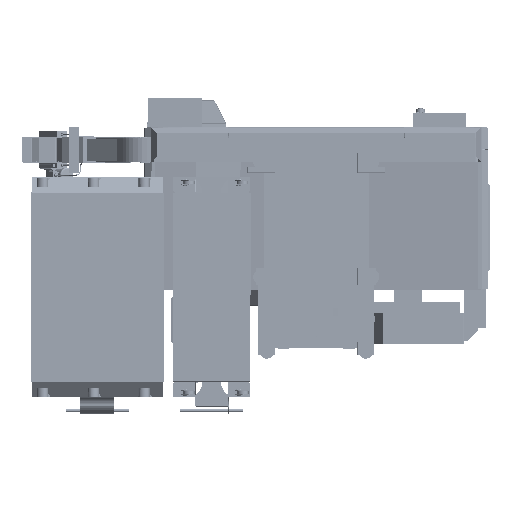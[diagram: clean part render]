
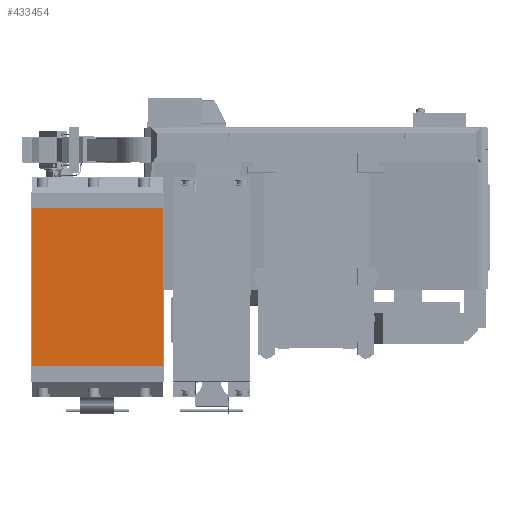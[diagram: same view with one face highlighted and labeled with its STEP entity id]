
A CAD part, front view. The second image highlights one B-rep face of the part: STEP entity #433454.
In plain terms, the highlighted planar face has unit normal (0, -1, 0).
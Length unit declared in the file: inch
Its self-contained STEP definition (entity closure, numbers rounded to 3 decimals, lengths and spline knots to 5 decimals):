
#84378 = FACE_OUTER_BOUND ( 'NONE', #768747, .T. ) ;
#107904 = DIRECTION ( 'NONE',  ( 0., 0., -1. ) ) ;
#112001 = CARTESIAN_POINT ( 'NONE',  ( -21.605, -19.4571, 39.16 ) ) ;
#121643 = VERTEX_POINT ( 'NONE', #643889 ) ;
#145024 = VECTOR ( 'NONE', #578145, 39.37008 ) ;
#153639 = VERTEX_POINT ( 'NONE', #595976 ) ;
#159305 = ORIENTED_EDGE ( 'NONE', *, *, #605671, .T. ) ;
#170152 = DIRECTION ( 'NONE',  ( 1., 0., 0. ) ) ;
#254466 = VECTOR ( 'NONE', #107904, 39.37008 ) ;
#270602 = ORIENTED_EDGE ( 'NONE', *, *, #487087, .T. ) ;
#271176 = CARTESIAN_POINT ( 'NONE',  ( -21.605, -19.4571, -22.54 ) ) ;
#346933 = VERTEX_POINT ( 'NONE', #271176 ) ;
#362599 = CARTESIAN_POINT ( 'NONE',  ( -21.605, -19.4571, 33.76 ) ) ;
#417293 = LINE ( 'NONE', #112001, #254466 ) ;
#431937 = VECTOR ( 'NONE', #578946, 39.37008 ) ;
#433454 = ADVANCED_FACE ( 'NONE', ( #84378 ), #778223, .F. ) ;
#456479 = DIRECTION ( 'NONE',  ( 0., 1., 0. ) ) ;
#479949 = EDGE_CURVE ( 'NONE', #546925, #346933, #417293, .T. ) ;
#487087 = EDGE_CURVE ( 'NONE', #153639, #346933, #487749, .T. ) ;
#487749 = LINE ( 'NONE', #617313, #540700 ) ;
#527415 = DIRECTION ( 'NONE',  ( 0., 0., 1. ) ) ;
#540700 = VECTOR ( 'NONE', #170152, 39.37008 ) ;
#546925 = VERTEX_POINT ( 'NONE', #362599 ) ;
#578145 = DIRECTION ( 'NONE',  ( 1., 0., 0. ) ) ;
#578946 = DIRECTION ( 'NONE',  ( 0., 0., -1. ) ) ;
#595976 = CARTESIAN_POINT ( 'NONE',  ( -68.105, -19.4571, -22.54 ) ) ;
#605671 = EDGE_CURVE ( 'NONE', #121643, #153639, #649823, .T. ) ;
#617313 = CARTESIAN_POINT ( 'NONE',  ( -68.105, -19.4571, -22.54 ) ) ;
#636699 = CARTESIAN_POINT ( 'NONE',  ( -68.21, -19.4571, 33.76 ) ) ;
#643889 = CARTESIAN_POINT ( 'NONE',  ( -68.105, -19.4571, 33.76 ) ) ;
#645033 = ORIENTED_EDGE ( 'NONE', *, *, #788634, .F. ) ;
#649823 = LINE ( 'NONE', #708410, #431937 ) ;
#652808 = CARTESIAN_POINT ( 'NONE',  ( -68.105, -19.4571, 39.16 ) ) ;
#708410 = CARTESIAN_POINT ( 'NONE',  ( -68.105, -19.4571, 39.16 ) ) ;
#740344 = AXIS2_PLACEMENT_3D ( 'NONE', #652808, #456479, #527415 ) ;
#768747 = EDGE_LOOP ( 'NONE', ( #645033, #159305, #270602, #795428 ) ) ;
#778223 = PLANE ( 'NONE',  #740344 ) ;
#788634 = EDGE_CURVE ( 'NONE', #121643, #546925, #824784, .T. ) ;
#795428 = ORIENTED_EDGE ( 'NONE', *, *, #479949, .F. ) ;
#824784 = LINE ( 'NONE', #636699, #145024 ) ;
